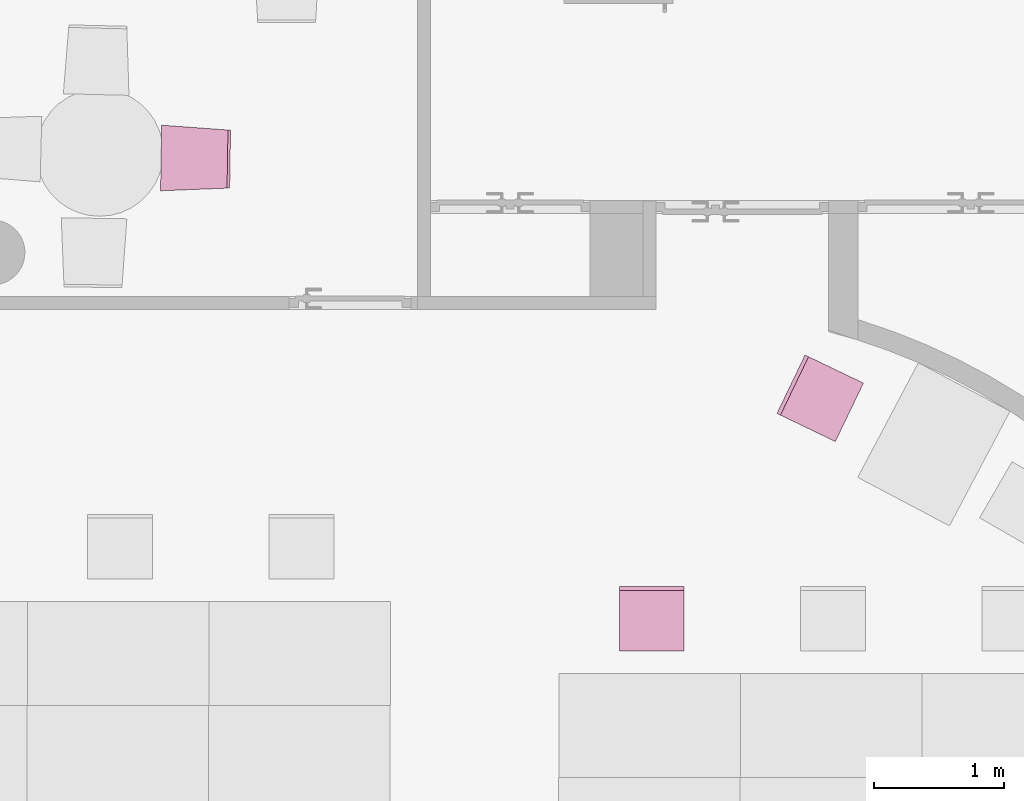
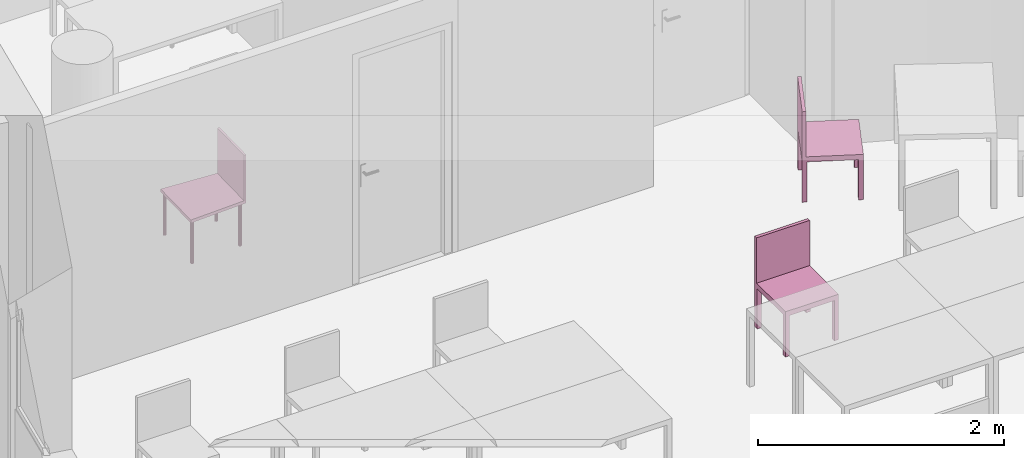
"""IFC4 building model written with IfcOpenShell, lengths in metres."""

from ifc_helpers import new_model, entity, si_unit, converted_unit, derived_unit, frame, origin, place, context, subcontext, project, spatial, faceted_brep, element, save


model = new_model("IFC4")

# Units and contexts
model_context = context("Model", 3, precision=1e-05, world=origin())
body_context = subcontext(model_context, "Body", "Model", "MODEL_VIEW")
ifc_project = project(units=[si_unit("LENGTHUNIT", "METRE"), si_unit("AREAUNIT", "SQUARE_METRE"), si_unit("VOLUMEUNIT", "CUBIC_METRE"), si_unit("MASSUNIT", "GRAM", prefix="KILO"), converted_unit("PLANEANGLEUNIT", "DEGREE", entity("IfcPlaneAngleMeasure", 0.0174532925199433), si_unit("PLANEANGLEUNIT", "RADIAN"), dimensions=[0, 0, 0, 0, 0, 0, 0]), derived_unit("THERMALTRANSMITTANCEUNIT", [(si_unit("POWERUNIT", "WATT"), 1), (si_unit("THERMODYNAMICTEMPERATUREUNIT", "KELVIN"), -1), (si_unit("LENGTHUNIT", "METRE"), -2)]), derived_unit("VOLUMETRICFLOWRATEUNIT", [(si_unit("LENGTHUNIT", "METRE"), 3), (converted_unit("TIMEUNIT", "hour", entity("IfcTimeMeasure", 3600.0), si_unit("TIMEUNIT", "SECOND"), dimensions=[0, 0, 1, 0, 0, 0, 0]), -1), (si_unit("LENGTHUNIT", "METRE"), -1)])], contexts=[model_context])

# Building, storeys
building_placement = place(None, origin())
building = spatial("IfcBuilding", under=ifc_project, at=building_placement, Name="HABITATGE PLURIFAMILIAR", CompositionType="ELEMENT")
storey_1_placement = place(building_placement, frame((0.0, 0.0, 6.25)))
storey_1 = spatial("IfcBuildingStorey", under=building, at=storey_1_placement, Name="PLANTA PRIMERA", CompositionType="ELEMENT", Elevation=6.25)
storey_2_placement = place(storey_1_placement, frame((0.0, 0.0, 3.35)))
storey_2 = spatial("IfcBuildingStorey", under=storey_1, at=storey_2_placement, Name="NOU", CompositionType="PARTIAL")

# Furniture
furniture_1_placement = place(storey_2_placement, frame((405.893907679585, 20.7827469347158, -3.34942958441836)))
element("IfcFurniture", 1, at=furniture_1_placement, inside=storey_2, Name="Cadira d'Oficina_P1", context=body_context, shape_type="Brep", body=[
    faceted_brep([(0.5, 0.0, 0.4), (0.5, 0.5, 0.4), (0.0, 0.5, 0.4), (0.0, 0.0, 0.4), (0.5, 0.5, 0.45), (0.5, 0.0, 0.45), (0.0, 0.0, 0.45), (0.0, 0.5, 0.45)], [[[0, 1, 2, 3]], [[4, 5, 6, 7]], [[1, 0, 5, 4]], [[2, 1, 4, 7]], [[3, 2, 7, 6]], [[0, 3, 6, 5]]], orient=[[False], [False], [False], [False], [False], [False]]),
    faceted_brep([(0.0, 0.46, 0.0), (0.04, 0.46, 0.0), (0.04, 0.5, 0.0), (0.0, 0.5, 0.0), (0.04, 0.46, 0.4), (0.0, 0.46, 0.4), (0.0, 0.5, 0.4), (0.04, 0.5, 0.4)], [[[0, 1, 2, 3]], [[4, 5, 6, 7]], [[1, 0, 5, 4]], [[2, 1, 4, 7]], [[3, 2, 7, 6]], [[0, 3, 6, 5]]], orient=[[False], [False], [False], [False], [False], [False]]),
    faceted_brep([(0.0, 0.0, 0.0), (0.04, 0.0, 0.0), (0.04, 0.04, 0.0), (0.0, 0.04, 0.0), (0.04, 0.0, 0.4), (0.0, 0.0, 0.4), (0.0, 0.04, 0.4), (0.04, 0.04, 0.4)], [[[0, 1, 2, 3]], [[4, 5, 6, 7]], [[1, 0, 5, 4]], [[2, 1, 4, 7]], [[3, 2, 7, 6]], [[0, 3, 6, 5]]], orient=[[False], [False], [False], [False], [False], [False]]),
    faceted_brep([(0.46, 0.46, 0.0), (0.5, 0.46, 0.0), (0.5, 0.5, 0.0), (0.46, 0.5, 0.0), (0.5, 0.46, 0.4), (0.46, 0.46, 0.4), (0.46, 0.5, 0.4), (0.5, 0.5, 0.4)], [[[0, 1, 2, 3]], [[4, 5, 6, 7]], [[1, 0, 5, 4]], [[2, 1, 4, 7]], [[3, 2, 7, 6]], [[0, 3, 6, 5]]], orient=[[False], [False], [False], [False], [False], [False]]),
    faceted_brep([(0.46, 0.0, 0.0), (0.5, 0.0, 0.0), (0.5, 0.04, 0.0), (0.46, 0.04, 0.0), (0.5, 0.0, 0.4), (0.46, 0.0, 0.4), (0.46, 0.04, 0.4), (0.5, 0.04, 0.4)], [[[0, 1, 2, 3]], [[4, 5, 6, 7]], [[1, 0, 5, 4]], [[2, 1, 4, 7]], [[3, 2, 7, 6]], [[0, 3, 6, 5]]], orient=[[False], [False], [False], [False], [False], [False]]),
    faceted_brep([(0.0, 0.47, 0.45), (0.5, 0.47, 0.45), (0.5, 0.5, 0.45), (0.0, 0.5, 0.45), (0.5, 0.47, 0.9), (0.0, 0.47, 0.9), (0.0, 0.5, 0.9), (0.5, 0.5, 0.9)], [[[0, 1, 2, 3]], [[4, 5, 6, 7]], [[1, 0, 5, 4]], [[2, 1, 4, 7]], [[3, 2, 7, 6]], [[0, 3, 6, 5]]], orient=[[False], [False], [False], [False], [False], [False]]),
])
furniture_2_placement = place(storey_2_placement, frame((407.110803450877, 22.4008847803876, -3.34942958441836)))
element("IfcFurniture", 2, at=furniture_2_placement, inside=storey_2, Name="Cadira d'Oficina_P1", context=body_context, shape_type="Brep", body=[
    faceted_brep([(0.667337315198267, 0.450567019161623, 0.4), (0.216770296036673, 0.667337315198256, 0.4), (0.0, 0.216770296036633, 0.4), (0.450567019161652, 0.0, 0.4), (0.216770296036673, 0.667337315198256, 0.45), (0.667337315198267, 0.450567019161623, 0.45), (0.450567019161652, 0.0, 0.45), (0.0, 0.216770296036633, 0.45)], [[[0, 1, 2, 3]], [[4, 5, 6, 7]], [[1, 0, 5, 4]], [[2, 1, 4, 7]], [[3, 2, 7, 6]], [[0, 3, 6, 5]]], orient=[[False], [False], [False], [False], [False], [False]]),
    faceted_brep([(0.0360453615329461, 0.199428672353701, 0.0), (0.0533869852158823, 0.235474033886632, 0.0), (0.0173416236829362, 0.252815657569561, 0.0), (0.0, 0.216770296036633, 0.0), (0.0533869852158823, 0.235474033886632, 0.4), (0.0360453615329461, 0.199428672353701, 0.4), (0.0, 0.216770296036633, 0.4), (0.0173416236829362, 0.252815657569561, 0.4)], [[[0, 1, 2, 3]], [[4, 5, 6, 7]], [[1, 0, 5, 4]], [[2, 1, 4, 7]], [[3, 2, 7, 6]], [[0, 3, 6, 5]]], orient=[[False], [False], [False], [False], [False], [False]]),
    faceted_brep([(0.450567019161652, 0.0, 0.0), (0.467908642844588, 0.0360453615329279, 0.0), (0.431863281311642, 0.0533869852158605, 0.0), (0.414521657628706, 0.0173416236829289, 0.0), (0.467908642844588, 0.0360453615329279, 0.4), (0.450567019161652, 0.0, 0.4), (0.414521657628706, 0.0173416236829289, 0.4), (0.431863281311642, 0.0533869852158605, 0.4)], [[[0, 1, 2, 3]], [[4, 5, 6, 7]], [[1, 0, 5, 4]], [[2, 1, 4, 7]], [[3, 2, 7, 6]], [[0, 3, 6, 5]]], orient=[[False], [False], [False], [False], [False], [False]]),
    faceted_brep([(0.235474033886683, 0.613950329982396, 0.0), (0.252815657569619, 0.649995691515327, 0.0), (0.216770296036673, 0.667337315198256, 0.0), (0.199428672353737, 0.631291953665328, 0.0), (0.252815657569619, 0.649995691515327, 0.4), (0.235474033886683, 0.613950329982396, 0.4), (0.199428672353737, 0.631291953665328, 0.4), (0.216770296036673, 0.667337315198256, 0.4)], [[[0, 1, 2, 3]], [[4, 5, 6, 7]], [[1, 0, 5, 4]], [[2, 1, 4, 7]], [[3, 2, 7, 6]], [[0, 3, 6, 5]]], orient=[[False], [False], [False], [False], [False], [False]]),
    faceted_brep([(0.649995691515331, 0.414521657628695, 0.0), (0.667337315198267, 0.450567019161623, 0.0), (0.631291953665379, 0.467908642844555, 0.0), (0.613950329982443, 0.431863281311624, 0.0), (0.667337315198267, 0.450567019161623, 0.4), (0.649995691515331, 0.414521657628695, 0.4), (0.613950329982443, 0.431863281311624, 0.4), (0.631291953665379, 0.467908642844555, 0.4)], [[[0, 1, 2, 3]], [[4, 5, 6, 7]], [[1, 0, 5, 4]], [[2, 1, 4, 7]], [[3, 2, 7, 6]], [[0, 3, 6, 5]]], orient=[[False], [False], [False], [False], [False], [False]]),
    faceted_brep([(0.0270340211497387, 0.203764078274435, 0.45), (0.243804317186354, 0.654331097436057, 0.45), (0.216770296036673, 0.667337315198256, 0.45), (0.0, 0.216770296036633, 0.45), (0.243804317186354, 0.654331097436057, 0.9), (0.0270340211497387, 0.203764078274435, 0.9), (0.0, 0.216770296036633, 0.9), (0.216770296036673, 0.667337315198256, 0.9)], [[[0, 1, 2, 3]], [[4, 5, 6, 7]], [[1, 0, 5, 4]], [[2, 1, 4, 7]], [[3, 2, 7, 6]], [[0, 3, 6, 5]]], orient=[[False], [False], [False], [False], [False], [False]]),
])
furniture_3_placement = place(storey_2_placement, frame((402.353951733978, 24.3356500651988, -3.35114412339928)))
element("IfcFurniture", 3, at=furniture_3_placement, inside=storey_2, Name="Cadira confient_P1", context=body_context, shape_type="Brep", body=[
    faceted_brep([(0.0251754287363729, 0.0088928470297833, 0.0), (0.027773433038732, 0.00906767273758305, 0.0), (0.0303016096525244, 0.00969098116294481, 0.0), (0.0326831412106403, 0.0107438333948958, 0.0), (0.034845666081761, 0.0121942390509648, 0.0), (0.0367234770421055, 0.0139981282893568, 0.0), (0.0382595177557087, 0.0161006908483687, 0.0), (0.0394071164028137, 0.0184380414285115, 0.0), (0.04013140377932, 0.0209391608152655, 0.0), (0.0404103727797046, 0.0235280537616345, 0.0), (0.0402355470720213, 0.0261260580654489, 0.0), (0.039612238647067, 0.0286542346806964, 0.0), (0.0385593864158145, 0.0310357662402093, 0.0), (0.0371089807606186, 0.0331982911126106, 0.0), (0.0353050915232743, 0.0350761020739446, 0.0), (0.033202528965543, 0.0366121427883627, 0.0), (0.0308651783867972, 0.0377597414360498, 0.0), (0.0283640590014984, 0.0384840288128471, 0.0), (0.0257751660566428, 0.0387629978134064, 0.0), (0.0231771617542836, 0.0385881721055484, 0.0), (0.0206489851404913, 0.0379648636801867, 0.0), (0.0182674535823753, 0.0369120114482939, 0.0), (0.0161049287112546, 0.0354616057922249, 0.0), (0.0142271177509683, 0.0336577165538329, 0.0), (0.012691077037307, 0.031555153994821, 0.0), (0.0115434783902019, 0.02921780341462, 0.0), (0.0108191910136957, 0.026716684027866, 0.0), (0.0105402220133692, 0.0241277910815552, 0.0), (0.0107150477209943, 0.0215297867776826, 0.0), (0.0113383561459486, 0.0190016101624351, 0.0), (0.0123912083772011, 0.0166200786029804, 0.0), (0.013841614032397, 0.0144575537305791, 0.0), (0.0156455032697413, 0.0125797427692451, 0.0), (0.0177480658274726, 0.011043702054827, 0.0), (0.0200854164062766, 0.00989610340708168, 0.0), (0.0225865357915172, 0.00917181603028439, 0.0), (0.0251754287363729, 0.0088928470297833, 0.448281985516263), (0.0225865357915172, 0.00917181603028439, 0.448281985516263), (0.0200854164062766, 0.00989610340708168, 0.448281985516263), (0.0177480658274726, 0.011043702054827, 0.448281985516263), (0.0156455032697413, 0.0125797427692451, 0.448281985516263), (0.013841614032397, 0.0144575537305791, 0.448281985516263), (0.0123912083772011, 0.0166200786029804, 0.448281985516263), (0.0113383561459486, 0.0190016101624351, 0.448281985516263), (0.0107150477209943, 0.0215297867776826, 0.448281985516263), (0.0105402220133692, 0.0241277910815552, 0.448281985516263), (0.0108191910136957, 0.026716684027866, 0.448281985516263), (0.0115434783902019, 0.02921780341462, 0.448281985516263), (0.012691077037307, 0.031555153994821, 0.448281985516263), (0.0142271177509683, 0.0336577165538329, 0.448281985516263), (0.0161049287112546, 0.0354616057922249, 0.448281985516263), (0.0182674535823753, 0.0369120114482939, 0.448281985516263), (0.0206489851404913, 0.0379648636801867, 0.448281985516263), (0.0231771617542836, 0.0385881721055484, 0.448281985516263), (0.0257751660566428, 0.0387629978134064, 0.448281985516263), (0.0283640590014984, 0.0384840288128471, 0.448281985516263), (0.0308651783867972, 0.0377597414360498, 0.448281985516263), (0.033202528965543, 0.0366121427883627, 0.448281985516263), (0.0353050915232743, 0.0350761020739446, 0.448281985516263), (0.0371089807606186, 0.0331982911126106, 0.448281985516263), (0.0385593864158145, 0.0310357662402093, 0.448281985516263), (0.039612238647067, 0.0286542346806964, 0.448281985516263), (0.0402355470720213, 0.0261260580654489, 0.448281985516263), (0.0404103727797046, 0.0235280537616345, 0.448281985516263), (0.04013140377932, 0.0209391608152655, 0.448281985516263), (0.0394071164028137, 0.0184380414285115, 0.448281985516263), (0.0382595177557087, 0.0161006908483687, 0.448281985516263), (0.0367234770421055, 0.0139981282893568, 0.448281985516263), (0.034845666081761, 0.0121942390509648, 0.448281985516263), (0.0326831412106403, 0.0107438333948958, 0.448281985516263), (0.0303016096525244, 0.00969098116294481, 0.448281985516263), (0.027773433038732, 0.00906767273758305, 0.448281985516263)], [[[0, 1, 2, 3, 4, 5, 6, 7, 8, 9, 10, 11, 12, 13, 14, 15, 16, 17, 18, 19, 20, 21, 22, 23, 24, 25, 26, 27, 28, 29, 30, 31, 32, 33, 34, 35]], [[36, 37, 38, 39, 40, 41, 42, 43, 44, 45, 46, 47, 48, 49, 50, 51, 52, 53, 54, 55, 56, 57, 58, 59, 60, 61, 62, 63, 64, 65, 66, 67, 68, 69, 70, 71]], [[1, 0, 36, 71]], [[2, 1, 71, 70]], [[3, 2, 70, 69]], [[4, 3, 69, 68]], [[5, 4, 68, 67]], [[6, 5, 67, 66]], [[7, 6, 66, 65]], [[8, 7, 65, 64]], [[9, 8, 64, 63]], [[10, 9, 63, 62]], [[11, 10, 62, 61]], [[12, 11, 61, 60]], [[13, 12, 60, 59]], [[14, 13, 59, 58]], [[15, 14, 58, 57]], [[16, 15, 57, 56]], [[17, 16, 56, 55]], [[18, 17, 55, 54]], [[19, 18, 54, 53]], [[20, 19, 53, 52]], [[21, 20, 52, 51]], [[22, 21, 51, 50]], [[23, 22, 50, 49]], [[24, 23, 49, 48]], [[25, 24, 48, 47]], [[26, 25, 47, 46]], [[27, 26, 46, 45]], [[28, 27, 45, 44]], [[29, 28, 44, 43]], [[30, 29, 43, 42]], [[31, 30, 42, 41]], [[32, 31, 41, 40]], [[33, 32, 40, 39]], [[34, 33, 39, 38]], [[35, 34, 38, 37]], [[0, 35, 37, 36]]], orient=[[False], [False], [False], [False], [False], [False], [False], [False], [False], [False], [False], [False], [False], [False], [False], [False], [False], [False], [False], [False], [False], [False], [False], [False], [False], [False], [False], [False], [False], [False], [False], [False], [False], [False], [False], [False], [False], [False]]),
    faceted_brep([(0.487960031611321, 0.0292533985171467, 0.0), (0.49055803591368, 0.0294282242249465, 0.0), (0.493086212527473, 0.0300515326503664, 0.0), (0.495467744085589, 0.0311043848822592, 0.0), (0.497630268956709, 0.0325547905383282, 0.0), (0.499508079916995, 0.0343586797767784, 0.0), (0.501044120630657, 0.0364612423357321, 0.0), (0.502191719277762, 0.0387985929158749, 0.0), (0.50291600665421, 0.0412997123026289, 0.0), (0.503194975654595, 0.0438886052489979, 0.0), (0.50302014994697, 0.0464866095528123, 0.0), (0.502396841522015, 0.0490147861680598, 0.0), (0.501343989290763, 0.0513963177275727, 0.0), (0.499893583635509, 0.053558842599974, 0.0), (0.498089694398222, 0.0554366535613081, 0.0), (0.495987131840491, 0.0569726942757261, 0.0), (0.493649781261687, 0.0581202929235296, 0.0), (0.491148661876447, 0.0588445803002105, 0.0), (0.488559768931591, 0.0591235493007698, 0.0), (0.485961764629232, 0.0589487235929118, 0.0), (0.483433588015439, 0.0583254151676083, 0.0), (0.481052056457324, 0.0572725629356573, 0.0), (0.478889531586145, 0.0558221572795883, 0.0), (0.477011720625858, 0.0540182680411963, 0.0), (0.475475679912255, 0.0519157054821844, 0.0), (0.474328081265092, 0.0495783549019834, 0.0), (0.473603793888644, 0.0470772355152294, 0.0), (0.473324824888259, 0.0444883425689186, 0.0), (0.473499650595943, 0.041890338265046, 0.0), (0.474122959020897, 0.0393621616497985, 0.0), (0.475175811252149, 0.0369806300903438, 0.0), (0.476626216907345, 0.0348181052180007, 0.0), (0.47843010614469, 0.0329402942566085, 0.0), (0.480532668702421, 0.0314042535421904, 0.0), (0.482870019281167, 0.0302566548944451, 0.0), (0.485371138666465, 0.0295323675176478, 0.0), (0.487960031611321, 0.0292533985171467, 0.448281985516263), (0.485371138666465, 0.0295323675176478, 0.448281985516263), (0.482870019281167, 0.0302566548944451, 0.448281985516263), (0.480532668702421, 0.0314042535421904, 0.448281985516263), (0.47843010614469, 0.0329402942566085, 0.448281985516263), (0.476626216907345, 0.0348181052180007, 0.448281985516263), (0.475175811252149, 0.0369806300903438, 0.448281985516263), (0.474122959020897, 0.0393621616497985, 0.448281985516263), (0.473499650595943, 0.041890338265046, 0.448281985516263), (0.473324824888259, 0.0444883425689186, 0.448281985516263), (0.473603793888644, 0.0470772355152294, 0.448281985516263), (0.474328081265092, 0.0495783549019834, 0.448281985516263), (0.475475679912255, 0.0519157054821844, 0.448281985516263), (0.477011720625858, 0.0540182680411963, 0.448281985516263), (0.478889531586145, 0.0558221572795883, 0.448281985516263), (0.481052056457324, 0.0572725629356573, 0.448281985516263), (0.483433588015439, 0.0583254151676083, 0.448281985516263), (0.485961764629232, 0.0589487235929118, 0.448281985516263), (0.488559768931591, 0.0591235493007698, 0.448281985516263), (0.491148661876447, 0.0588445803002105, 0.448281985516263), (0.493649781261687, 0.0581202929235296, 0.448281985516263), (0.495987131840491, 0.0569726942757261, 0.448281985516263), (0.498089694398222, 0.0554366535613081, 0.448281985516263), (0.499893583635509, 0.053558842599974, 0.448281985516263), (0.501343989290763, 0.0513963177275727, 0.448281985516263), (0.502396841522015, 0.0490147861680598, 0.448281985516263), (0.50302014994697, 0.0464866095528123, 0.448281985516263), (0.503194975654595, 0.0438886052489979, 0.448281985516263), (0.50291600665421, 0.0412997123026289, 0.448281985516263), (0.502191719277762, 0.0387985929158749, 0.448281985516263), (0.501044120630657, 0.0364612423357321, 0.448281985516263), (0.499508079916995, 0.0343586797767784, 0.448281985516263), (0.497630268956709, 0.0325547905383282, 0.448281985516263), (0.495467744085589, 0.0311043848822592, 0.448281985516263), (0.493086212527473, 0.0300515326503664, 0.448281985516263), (0.49055803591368, 0.0294282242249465, 0.448281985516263)], [[[0, 1, 2, 3, 4, 5, 6, 7, 8, 9, 10, 11, 12, 13, 14, 15, 16, 17, 18, 19, 20, 21, 22, 23, 24, 25, 26, 27, 28, 29, 30, 31, 32, 33, 34, 35]], [[36, 37, 38, 39, 40, 41, 42, 43, 44, 45, 46, 47, 48, 49, 50, 51, 52, 53, 54, 55, 56, 57, 58, 59, 60, 61, 62, 63, 64, 65, 66, 67, 68, 69, 70, 71]], [[1, 0, 36, 71]], [[2, 1, 71, 70]], [[3, 2, 70, 69]], [[4, 3, 69, 68]], [[5, 4, 68, 67]], [[6, 5, 67, 66]], [[7, 6, 66, 65]], [[8, 7, 65, 64]], [[9, 8, 64, 63]], [[10, 9, 63, 62]], [[11, 10, 62, 61]], [[12, 11, 61, 60]], [[13, 12, 60, 59]], [[14, 13, 59, 58]], [[15, 14, 58, 57]], [[16, 15, 57, 56]], [[17, 16, 56, 55]], [[18, 17, 55, 54]], [[19, 18, 54, 53]], [[20, 19, 53, 52]], [[21, 20, 52, 51]], [[22, 21, 51, 50]], [[23, 22, 50, 49]], [[24, 23, 49, 48]], [[25, 24, 48, 47]], [[26, 25, 47, 46]], [[27, 26, 46, 45]], [[28, 27, 45, 44]], [[29, 28, 44, 43]], [[30, 29, 43, 42]], [[31, 30, 42, 41]], [[32, 31, 41, 40]], [[33, 32, 40, 39]], [[34, 33, 39, 38]], [[35, 34, 38, 37]], [[0, 35, 37, 36]]], orient=[[False], [False], [False], [False], [False], [False], [False], [False], [False], [False], [False], [False], [False], [False], [False], [False], [False], [False], [False], [False], [False], [False], [False], [False], [False], [False], [False], [False], [False], [False], [False], [False], [False], [False], [False], [False], [False], [False]]),
    faceted_brep([(0.0324115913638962, 0.468835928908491, 0.0), (0.0350095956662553, 0.469010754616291, 0.0), (0.0375377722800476, 0.469634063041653, 0.0), (0.0399193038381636, 0.470686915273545, 0.0), (0.0420818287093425, 0.472137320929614, 0.0), (0.0439596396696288, 0.473941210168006, 0.0), (0.045495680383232, 0.476043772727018, 0.0), (0.046643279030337, 0.478381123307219, 0.0), (0.0473675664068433, 0.480882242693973, 0.0), (0.0476465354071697, 0.483471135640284, 0.0), (0.0474717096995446, 0.486069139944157, 0.0), (0.0468484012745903, 0.488597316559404, 0.0), (0.0457955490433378, 0.490978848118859, 0.0), (0.0443451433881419, 0.493141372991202, 0.0), (0.0425412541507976, 0.495019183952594, 0.0), (0.0404386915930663, 0.496555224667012, 0.0), (0.0381013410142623, 0.497702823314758, 0.0), (0.0356002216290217, 0.498427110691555, 0.0), (0.0330113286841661, 0.498706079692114, 0.0), (0.0304133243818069, 0.498531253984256, 0.0), (0.0278851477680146, 0.497907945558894, 0.0), (0.0255036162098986, 0.496855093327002, 0.0), (0.0233410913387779, 0.495404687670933, 0.0), (0.0214632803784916, 0.493600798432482, 0.0), (0.0199272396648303, 0.491498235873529, 0.0), (0.0187796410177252, 0.489160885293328, 0.0), (0.0180553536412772, 0.486659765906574, 0.0), (0.0177763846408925, 0.484070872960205, 0.0), (0.0179512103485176, 0.48147286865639, 0.0), (0.0185745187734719, 0.478944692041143, 0.0), (0.0196273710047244, 0.476563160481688, 0.0), (0.0210777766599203, 0.474400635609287, 0.0), (0.0228816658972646, 0.472522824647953, 0.0), (0.0249842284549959, 0.470986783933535, 0.0), (0.0273215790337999, 0.469839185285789, 0.0), (0.0298226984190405, 0.469114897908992, 0.0), (0.0324115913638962, 0.468835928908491, 0.448281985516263), (0.0298226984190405, 0.469114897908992, 0.448281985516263), (0.0273215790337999, 0.469839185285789, 0.448281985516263), (0.0249842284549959, 0.470986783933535, 0.448281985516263), (0.0228816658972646, 0.472522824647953, 0.448281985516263), (0.0210777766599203, 0.474400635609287, 0.448281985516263), (0.0196273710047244, 0.476563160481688, 0.448281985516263), (0.0185745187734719, 0.478944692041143, 0.448281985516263), (0.0179512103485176, 0.48147286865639, 0.448281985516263), (0.0177763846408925, 0.484070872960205, 0.448281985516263), (0.0180553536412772, 0.486659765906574, 0.448281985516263), (0.0187796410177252, 0.489160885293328, 0.448281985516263), (0.0199272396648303, 0.491498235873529, 0.448281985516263), (0.0214632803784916, 0.493600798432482, 0.448281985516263), (0.0233410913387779, 0.495404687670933, 0.448281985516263), (0.0255036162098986, 0.496855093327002, 0.448281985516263), (0.0278851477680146, 0.497907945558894, 0.448281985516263), (0.0304133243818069, 0.498531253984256, 0.448281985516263), (0.0330113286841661, 0.498706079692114, 0.448281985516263), (0.0356002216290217, 0.498427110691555, 0.448281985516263), (0.0381013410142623, 0.497702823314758, 0.448281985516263), (0.0404386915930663, 0.496555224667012, 0.448281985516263), (0.0425412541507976, 0.495019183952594, 0.448281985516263), (0.0443451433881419, 0.493141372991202, 0.448281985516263), (0.0457955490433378, 0.490978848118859, 0.448281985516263), (0.0468484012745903, 0.488597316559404, 0.448281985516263), (0.0474717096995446, 0.486069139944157, 0.448281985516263), (0.0476465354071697, 0.483471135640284, 0.448281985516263), (0.0473675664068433, 0.480882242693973, 0.448281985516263), (0.046643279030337, 0.478381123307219, 0.448281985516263), (0.045495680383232, 0.476043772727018, 0.448281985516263), (0.0439596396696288, 0.473941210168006, 0.448281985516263), (0.0420818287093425, 0.472137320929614, 0.448281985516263), (0.0399193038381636, 0.470686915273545, 0.448281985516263), (0.0375377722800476, 0.469634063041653, 0.448281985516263), (0.0350095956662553, 0.469010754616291, 0.448281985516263)], [[[0, 1, 2, 3, 4, 5, 6, 7, 8, 9, 10, 11, 12, 13, 14, 15, 16, 17, 18, 19, 20, 21, 22, 23, 24, 25, 26, 27, 28, 29, 30, 31, 32, 33, 34, 35]], [[36, 37, 38, 39, 40, 41, 42, 43, 44, 45, 46, 47, 48, 49, 50, 51, 52, 53, 54, 55, 56, 57, 58, 59, 60, 61, 62, 63, 64, 65, 66, 67, 68, 69, 70, 71]], [[1, 0, 36, 71]], [[2, 1, 71, 70]], [[3, 2, 70, 69]], [[4, 3, 69, 68]], [[5, 4, 68, 67]], [[6, 5, 67, 66]], [[7, 6, 66, 65]], [[8, 7, 65, 64]], [[9, 8, 64, 63]], [[10, 9, 63, 62]], [[11, 10, 62, 61]], [[12, 11, 61, 60]], [[13, 12, 60, 59]], [[14, 13, 59, 58]], [[15, 14, 58, 57]], [[16, 15, 57, 56]], [[17, 16, 56, 55]], [[18, 17, 55, 54]], [[19, 18, 54, 53]], [[20, 19, 53, 52]], [[21, 20, 52, 51]], [[22, 21, 51, 50]], [[23, 22, 50, 49]], [[24, 23, 49, 48]], [[25, 24, 48, 47]], [[26, 25, 47, 46]], [[27, 26, 46, 45]], [[28, 27, 45, 44]], [[29, 28, 44, 43]], [[30, 29, 43, 42]], [[31, 30, 42, 41]], [[32, 31, 41, 40]], [[33, 32, 40, 39]], [[34, 33, 39, 38]], [[35, 34, 38, 37]], [[0, 35, 37, 36]]], orient=[[False], [False], [False], [False], [False], [False], [False], [False], [False], [False], [False], [False], [False], [False], [False], [False], [False], [False], [False], [False], [False], [False], [False], [False], [False], [False], [False], [False], [False], [False], [False], [False], [False], [False], [False], [False], [False], [False]]),
    faceted_brep([(0.494252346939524, 0.429203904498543, 0.0), (0.496850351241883, 0.429378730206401, 0.0), (0.499378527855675, 0.430002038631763, 0.0), (0.501760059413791, 0.431054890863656, 0.0), (0.503922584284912, 0.432505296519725, 0.0), (0.505800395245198, 0.434309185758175, 0.0), (0.507336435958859, 0.436411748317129, 0.0), (0.508484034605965, 0.43874909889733, 0.0), (0.509208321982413, 0.441250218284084, 0.0), (0.509487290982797, 0.443839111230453, 0.0), (0.509312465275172, 0.446437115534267, 0.0), (0.508689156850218, 0.448965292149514, 0.0), (0.507636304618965, 0.451346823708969, 0.0), (0.506185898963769, 0.45350934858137, 0.0), (0.504382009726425, 0.455387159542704, 0.0), (0.502279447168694, 0.456923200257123, 0.0), (0.49994209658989, 0.458070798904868, 0.0), (0.497440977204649, 0.458795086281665, 0.0), (0.494852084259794, 0.459074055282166, 0.0), (0.492254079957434, 0.458899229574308, 0.0), (0.489725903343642, 0.458275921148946, 0.0), (0.487344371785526, 0.457223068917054, 0.0), (0.485181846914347, 0.455772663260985, 0.0), (0.483304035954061, 0.453968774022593, 0.0), (0.481767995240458, 0.451866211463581, 0.0), (0.480620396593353, 0.44952886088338, 0.0), (0.479896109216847, 0.447027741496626, 0.0), (0.47961714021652, 0.444438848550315, 0.0), (0.479791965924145, 0.441840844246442, 0.0), (0.480415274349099, 0.439312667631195, 0.0), (0.481468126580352, 0.43693113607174, 0.0), (0.482918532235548, 0.434768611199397, 0.0), (0.484722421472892, 0.432890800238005, 0.0), (0.486824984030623, 0.431354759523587, 0.0), (0.489162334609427, 0.430207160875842, 0.0), (0.491663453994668, 0.429482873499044, 0.0), (0.494252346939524, 0.429203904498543, 0.448281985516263), (0.491663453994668, 0.429482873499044, 0.448281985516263), (0.489162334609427, 0.430207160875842, 0.448281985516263), (0.486824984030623, 0.431354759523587, 0.448281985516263), (0.484722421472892, 0.432890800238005, 0.448281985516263), (0.482918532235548, 0.434768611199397, 0.448281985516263), (0.481468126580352, 0.43693113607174, 0.448281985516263), (0.480415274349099, 0.439312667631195, 0.448281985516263), (0.479791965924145, 0.441840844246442, 0.448281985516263), (0.47961714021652, 0.444438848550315, 0.448281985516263), (0.479896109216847, 0.447027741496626, 0.448281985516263), (0.480620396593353, 0.44952886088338, 0.448281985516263), (0.481767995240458, 0.451866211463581, 0.448281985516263), (0.483304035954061, 0.453968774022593, 0.448281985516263), (0.485181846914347, 0.455772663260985, 0.448281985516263), (0.487344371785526, 0.457223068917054, 0.448281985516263), (0.489725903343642, 0.458275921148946, 0.448281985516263), (0.492254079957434, 0.458899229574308, 0.448281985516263), (0.494852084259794, 0.459074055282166, 0.448281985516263), (0.497440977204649, 0.458795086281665, 0.448281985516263), (0.49994209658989, 0.458070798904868, 0.448281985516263), (0.502279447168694, 0.456923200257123, 0.448281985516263), (0.504382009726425, 0.455387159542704, 0.448281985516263), (0.506185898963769, 0.45350934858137, 0.448281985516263), (0.507636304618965, 0.451346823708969, 0.448281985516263), (0.508689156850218, 0.448965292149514, 0.448281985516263), (0.509312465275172, 0.446437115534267, 0.448281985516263), (0.509487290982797, 0.443839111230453, 0.448281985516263), (0.509208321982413, 0.441250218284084, 0.448281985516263), (0.508484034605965, 0.43874909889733, 0.448281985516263), (0.507336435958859, 0.436411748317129, 0.448281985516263), (0.505800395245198, 0.434309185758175, 0.448281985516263), (0.503922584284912, 0.432505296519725, 0.448281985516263), (0.501760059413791, 0.431054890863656, 0.448281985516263), (0.499378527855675, 0.430002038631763, 0.448281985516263), (0.496850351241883, 0.429378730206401, 0.448281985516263)], [[[0, 1, 2, 3, 4, 5, 6, 7, 8, 9, 10, 11, 12, 13, 14, 15, 16, 17, 18, 19, 20, 21, 22, 23, 24, 25, 26, 27, 28, 29, 30, 31, 32, 33, 34, 35]], [[36, 37, 38, 39, 40, 41, 42, 43, 44, 45, 46, 47, 48, 49, 50, 51, 52, 53, 54, 55, 56, 57, 58, 59, 60, 61, 62, 63, 64, 65, 66, 67, 68, 69, 70, 71]], [[1, 0, 36, 71]], [[2, 1, 71, 70]], [[3, 2, 70, 69]], [[4, 3, 69, 68]], [[5, 4, 68, 67]], [[6, 5, 67, 66]], [[7, 6, 66, 65]], [[8, 7, 65, 64]], [[9, 8, 64, 63]], [[10, 9, 63, 62]], [[11, 10, 62, 61]], [[12, 11, 61, 60]], [[13, 12, 60, 59]], [[14, 13, 59, 58]], [[15, 14, 58, 57]], [[16, 15, 57, 56]], [[17, 16, 56, 55]], [[18, 17, 55, 54]], [[19, 18, 54, 53]], [[20, 19, 53, 52]], [[21, 20, 52, 51]], [[22, 21, 51, 50]], [[23, 22, 50, 49]], [[24, 23, 49, 48]], [[25, 24, 48, 47]], [[26, 25, 47, 46]], [[27, 26, 46, 45]], [[28, 27, 45, 44]], [[29, 28, 44, 43]], [[30, 29, 43, 42]], [[31, 30, 42, 41]], [[32, 31, 41, 40]], [[33, 32, 40, 39]], [[34, 33, 39, 38]], [[35, 34, 38, 37]], [[0, 35, 37, 36]]], orient=[[False], [False], [False], [False], [False], [False], [False], [False], [False], [False], [False], [False], [False], [False], [False], [False], [False], [False], [False], [False], [False], [False], [False], [False], [False], [False], [False], [False], [False], [False], [False], [False], [False], [False], [False], [False], [False], [False]]),
    faceted_brep([(0.540037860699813, 0.468077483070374, 0.418281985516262), (0.00796787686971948, 0.5064521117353, 0.418281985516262), (0.0, 0.0, 0.418281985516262), (0.533013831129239, 0.0216179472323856, 0.418281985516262), (0.00796787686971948, 0.5064521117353, 0.448281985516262), (0.540037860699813, 0.468077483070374, 0.448281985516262), (0.533013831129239, 0.0216179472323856, 0.448281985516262), (0.0, 0.0, 0.448281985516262)], [[[0, 1, 2, 3]], [[4, 5, 6, 7]], [[1, 0, 5, 4]], [[2, 1, 4, 7]], [[3, 2, 7, 6]], [[0, 3, 6, 5]]], orient=[[False], [False], [False], [False], [False], [False]]),
    faceted_brep([(0.520040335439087, 0.46839209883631, 0.448281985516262), (0.513016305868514, 0.0219325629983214, 0.448281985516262), (0.533013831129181, 0.0216179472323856, 0.448281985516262), (0.540037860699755, 0.468077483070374, 0.448281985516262), (0.513016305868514, 0.0219325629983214, 0.898281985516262), (0.520040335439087, 0.46839209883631, 0.898281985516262), (0.540037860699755, 0.468077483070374, 0.898281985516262), (0.533013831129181, 0.0216179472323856, 0.898281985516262)], [[[0, 1, 2, 3]], [[4, 5, 6, 7]], [[1, 0, 5, 4]], [[2, 1, 4, 7]], [[3, 2, 7, 6]], [[0, 3, 6, 5]]], orient=[[False], [False], [False], [False], [False], [False]]),
])

save(model, "model.ifc")
